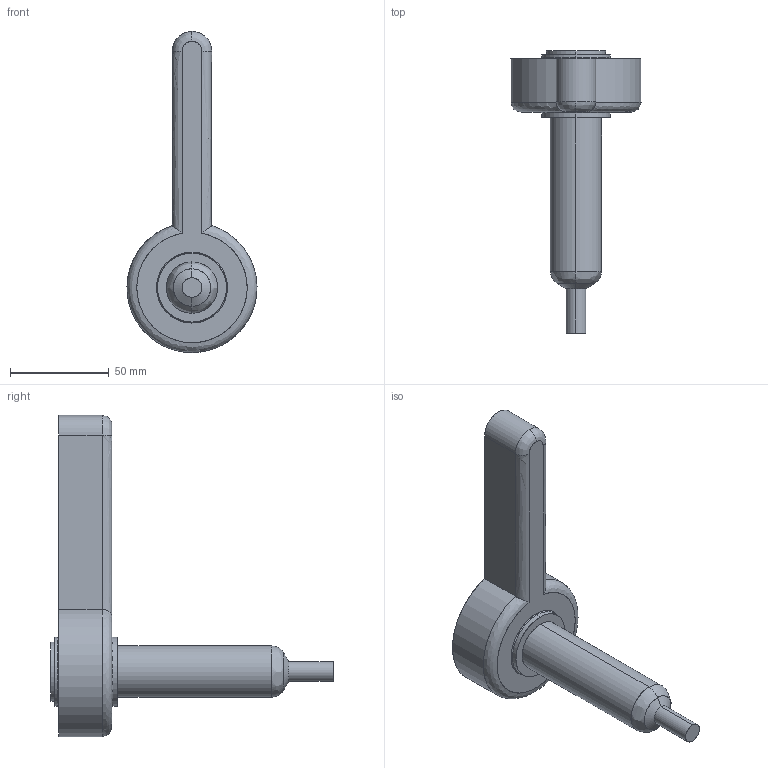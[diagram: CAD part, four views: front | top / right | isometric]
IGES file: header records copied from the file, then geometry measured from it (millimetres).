
Start section: SolidWorks IGES file using analytic representation for surfaces
Global section: file name: C:\Users\luca.EMPAD\Desktop\TEM\Sede UGBE3502-S-A C-89 L-121 P-20.IGS; native system: SolidWorks 2012; preprocessor: SolidWorks 2012; author: luca; date: 120330.142819; units: millimetre
Bounding box: 65.99 x 143.23 x 163 mm (x, y, z)
Surface area: 28565.7 mm2 (no closed solid volume)
Topology: 0 solids, 0 shells, 34 faces, 754 edges, 754 vertices
Faces by surface type: revolution 21, bspline 13
